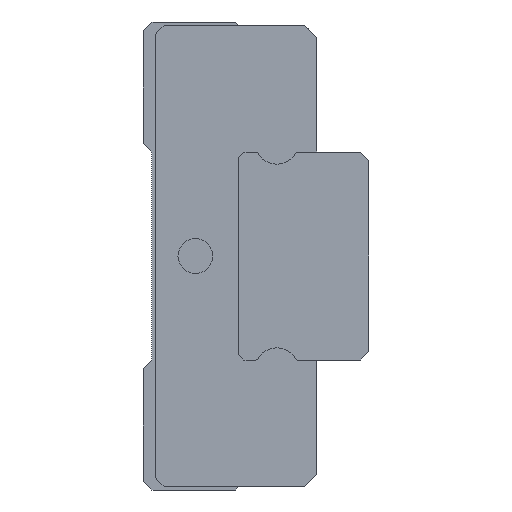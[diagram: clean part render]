
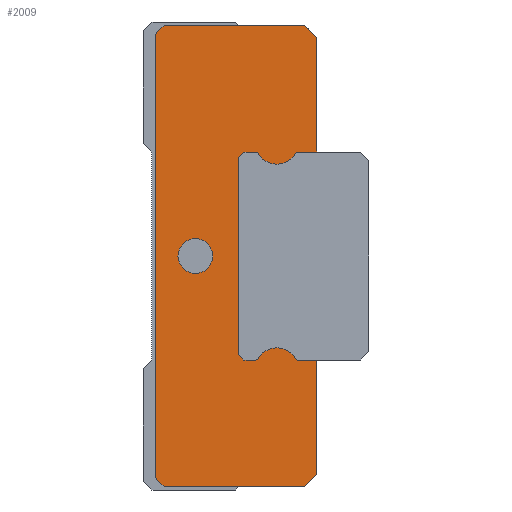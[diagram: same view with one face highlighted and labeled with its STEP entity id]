
A CAD part, left-side view. The second image highlights one B-rep face of the part: STEP entity #2009.
In plain terms, the highlighted planar face has unit normal (-1, 0, 0).
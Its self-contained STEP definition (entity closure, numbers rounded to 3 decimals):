
#93=CIRCLE('',#2204,1.);
#94=CIRCLE('',#2205,0.15);
#95=CIRCLE('',#2206,1.25);
#96=CIRCLE('',#2207,0.15);
#97=CIRCLE('',#2208,0.15);
#98=CIRCLE('',#2209,1.25);
#99=CIRCLE('',#2210,0.15);
#455=ORIENTED_EDGE('',*,*,#864,.T.);
#456=ORIENTED_EDGE('',*,*,#865,.T.);
#457=ORIENTED_EDGE('',*,*,#846,.F.);
#458=ORIENTED_EDGE('',*,*,#770,.F.);
#459=ORIENTED_EDGE('',*,*,#766,.F.);
#460=ORIENTED_EDGE('',*,*,#787,.F.);
#461=ORIENTED_EDGE('',*,*,#839,.F.);
#462=ORIENTED_EDGE('',*,*,#831,.F.);
#463=ORIENTED_EDGE('',*,*,#837,.F.);
#464=ORIENTED_EDGE('',*,*,#808,.F.);
#465=ORIENTED_EDGE('',*,*,#848,.F.);
#466=ORIENTED_EDGE('',*,*,#866,.F.);
#467=ORIENTED_EDGE('',*,*,#867,.T.);
#468=ORIENTED_EDGE('',*,*,#868,.F.);
#469=ORIENTED_EDGE('',*,*,#869,.T.);
#470=ORIENTED_EDGE('',*,*,#870,.T.);
#471=ORIENTED_EDGE('',*,*,#871,.T.);
#472=ORIENTED_EDGE('',*,*,#872,.T.);
#473=ORIENTED_EDGE('',*,*,#873,.T.);
#474=ORIENTED_EDGE('',*,*,#874,.T.);
#475=ORIENTED_EDGE('',*,*,#875,.T.);
#476=ORIENTED_EDGE('',*,*,#876,.F.);
#477=ORIENTED_EDGE('',*,*,#877,.T.);
#766=EDGE_CURVE('',#1014,#1015,#1182,.T.);
#770=EDGE_CURVE('',#1015,#1017,#1186,.T.);
#787=EDGE_CURVE('',#1030,#1014,#1203,.T.);
#808=EDGE_CURVE('',#1047,#1048,#1224,.T.);
#831=EDGE_CURVE('',#1065,#1066,#1247,.T.);
#837=EDGE_CURVE('',#1048,#1065,#1253,.T.);
#839=EDGE_CURVE('',#1066,#1030,#1255,.T.);
#846=EDGE_CURVE('',#1017,#1069,#1262,.T.);
#848=EDGE_CURVE('',#1070,#1047,#1264,.T.);
#864=EDGE_CURVE('',#1085,#1085,#93,.T.);
#865=EDGE_CURVE('',#1086,#1069,#1273,.T.);
#866=EDGE_CURVE('',#1087,#1070,#1274,.T.);
#867=EDGE_CURVE('',#1087,#1088,#94,.T.);
#868=EDGE_CURVE('',#1089,#1088,#95,.T.);
#869=EDGE_CURVE('',#1089,#1090,#96,.T.);
#870=EDGE_CURVE('',#1090,#1091,#1275,.T.);
#871=EDGE_CURVE('',#1091,#1092,#1276,.T.);
#872=EDGE_CURVE('',#1092,#1093,#1277,.T.);
#873=EDGE_CURVE('',#1093,#1094,#1278,.T.);
#874=EDGE_CURVE('',#1094,#1095,#1279,.T.);
#875=EDGE_CURVE('',#1095,#1096,#97,.T.);
#876=EDGE_CURVE('',#1097,#1096,#98,.T.);
#877=EDGE_CURVE('',#1097,#1086,#99,.T.);
#1014=VERTEX_POINT('',#3058);
#1015=VERTEX_POINT('',#3060);
#1017=VERTEX_POINT('',#3067);
#1030=VERTEX_POINT('',#3099);
#1047=VERTEX_POINT('',#3142);
#1048=VERTEX_POINT('',#3144);
#1065=VERTEX_POINT('',#3188);
#1066=VERTEX_POINT('',#3190);
#1069=VERTEX_POINT('',#3213);
#1070=VERTEX_POINT('',#3218);
#1085=VERTEX_POINT('',#3252);
#1086=VERTEX_POINT('',#3254);
#1087=VERTEX_POINT('',#3256);
#1088=VERTEX_POINT('',#3258);
#1089=VERTEX_POINT('',#3260);
#1090=VERTEX_POINT('',#3262);
#1091=VERTEX_POINT('',#3264);
#1092=VERTEX_POINT('',#3266);
#1093=VERTEX_POINT('',#3268);
#1094=VERTEX_POINT('',#3270);
#1095=VERTEX_POINT('',#3272);
#1096=VERTEX_POINT('',#3274);
#1097=VERTEX_POINT('',#3276);
#1182=LINE('',#3059,#1374);
#1186=LINE('',#3066,#1378);
#1203=LINE('',#3100,#1395);
#1224=LINE('',#3143,#1416);
#1247=LINE('',#3189,#1439);
#1253=LINE('',#3199,#1445);
#1255=LINE('',#3202,#1447);
#1262=LINE('',#3215,#1454);
#1264=LINE('',#3220,#1456);
#1273=LINE('',#3253,#1465);
#1274=LINE('',#3255,#1466);
#1275=LINE('',#3263,#1467);
#1276=LINE('',#3265,#1468);
#1277=LINE('',#3267,#1469);
#1278=LINE('',#3269,#1470);
#1279=LINE('',#3271,#1471);
#1374=VECTOR('',#2500,1000.);
#1378=VECTOR('',#2506,1000.);
#1395=VECTOR('',#2529,1000.);
#1416=VECTOR('',#2560,1000.);
#1439=VECTOR('',#2593,1000.);
#1445=VECTOR('',#2603,1000.);
#1447=VECTOR('',#2607,1000.);
#1454=VECTOR('',#2622,1000.);
#1456=VECTOR('',#2626,1000.);
#1465=VECTOR('',#2655,1000.);
#1466=VECTOR('',#2656,1000.);
#1467=VECTOR('',#2663,1000.);
#1468=VECTOR('',#2664,1000.);
#1469=VECTOR('',#2665,1000.);
#1470=VECTOR('',#2666,1000.);
#1471=VECTOR('',#2667,1000.);
#1628=EDGE_LOOP('',(#455));
#1629=EDGE_LOOP('',(#456,#457,#458,#459,#460,#461,#462,#463,#464,#465,#466,
#467,#468,#469,#470,#471,#472,#473,#474,#475,#476,#477));
#1800=FACE_BOUND('',#1628,.T.);
#1801=FACE_BOUND('',#1629,.T.);
#1913=PLANE('',#2203);
#2009=ADVANCED_FACE('',(#1800,#1801),#1913,.F.);
#2203=AXIS2_PLACEMENT_3D('',#3250,#2651,#2652);
#2204=AXIS2_PLACEMENT_3D('',#3251,#2653,#2654);
#2205=AXIS2_PLACEMENT_3D('',#3257,#2657,#2658);
#2206=AXIS2_PLACEMENT_3D('',#3259,#2659,#2660);
#2207=AXIS2_PLACEMENT_3D('',#3261,#2661,#2662);
#2208=AXIS2_PLACEMENT_3D('',#3273,#2668,#2669);
#2209=AXIS2_PLACEMENT_3D('',#3275,#2670,#2671);
#2210=AXIS2_PLACEMENT_3D('',#3277,#2672,#2673);
#2500=DIRECTION('',(0.,-1.,0.));
#2506=DIRECTION('',(0.,-0.707,-0.707));
#2529=DIRECTION('',(0.,-0.707,0.707));
#2560=DIRECTION('',(0.,0.707,-0.707));
#2593=DIRECTION('',(0.,0.707,0.707));
#2603=DIRECTION('',(0.,1.,0.));
#2607=DIRECTION('',(0.,0.,1.));
#2622=DIRECTION('',(0.,0.,-1.));
#2626=DIRECTION('',(0.,0.,-1.));
#2651=DIRECTION('',(1.,0.,0.));
#2652=DIRECTION('',(0.,0.,-1.));
#2653=DIRECTION('',(1.,0.,0.));
#2654=DIRECTION('',(0.,0.,-1.));
#2655=DIRECTION('',(0.,-1.,0.));
#2656=DIRECTION('',(0.,-1.,0.));
#2657=DIRECTION('',(1.,0.,0.));
#2658=DIRECTION('',(0.,0.,-1.));
#2659=DIRECTION('',(1.,0.,0.));
#2660=DIRECTION('',(0.,0.,-1.));
#2661=DIRECTION('',(1.,0.,0.));
#2662=DIRECTION('',(0.,0.,-1.));
#2663=DIRECTION('',(0.,1.,0.));
#2664=DIRECTION('',(0.,0.707,0.707));
#2665=DIRECTION('',(0.,0.,1.));
#2666=DIRECTION('',(0.,-0.707,0.707));
#2667=DIRECTION('',(0.,-1.,0.));
#2668=DIRECTION('',(1.,0.,0.));
#2669=DIRECTION('',(0.,0.,-1.));
#2670=DIRECTION('',(1.,0.,0.));
#2671=DIRECTION('',(0.,0.,-1.));
#2672=DIRECTION('',(1.,0.,0.));
#2673=DIRECTION('',(0.,0.,-1.));
#3058=CARTESIAN_POINT('',(-17.5,8.8,13.3));
#3059=CARTESIAN_POINT('',(-17.5,8.8,13.3));
#3060=CARTESIAN_POINT('',(-17.5,0.7,13.3));
#3066=CARTESIAN_POINT('',(-17.5,0.7,13.3));
#3067=CARTESIAN_POINT('',(-17.5,0.,12.6));
#3099=CARTESIAN_POINT('',(-17.5,9.3,12.8));
#3100=CARTESIAN_POINT('',(-17.5,9.3,12.8));
#3142=CARTESIAN_POINT('',(-17.5,0.,-12.6));
#3143=CARTESIAN_POINT('',(-17.5,0.,-12.6));
#3144=CARTESIAN_POINT('',(-17.5,0.7,-13.3));
#3188=CARTESIAN_POINT('',(-17.5,8.8,-13.3));
#3189=CARTESIAN_POINT('',(-17.5,8.8,-13.3));
#3190=CARTESIAN_POINT('',(-17.5,9.3,-12.8));
#3199=CARTESIAN_POINT('',(-17.5,0.7,-13.3));
#3202=CARTESIAN_POINT('',(-17.5,9.3,-12.8));
#3213=CARTESIAN_POINT('',(-17.5,0.,6.));
#3215=CARTESIAN_POINT('',(-17.5,0.,12.6));
#3218=CARTESIAN_POINT('',(-17.5,0.,-6.));
#3220=CARTESIAN_POINT('',(-17.5,0.,12.6));
#3250=CARTESIAN_POINT('',(-17.5,0.,0.));
#3251=CARTESIAN_POINT('',(-17.5,7.,0.));
#3252=CARTESIAN_POINT('',(-17.5,7.,-1.));
#3253=CARTESIAN_POINT('',(-17.5,1.088,6.));
#3254=CARTESIAN_POINT('',(-17.5,1.088,6.));
#3255=CARTESIAN_POINT('',(-17.5,0.,-6.));
#3256=CARTESIAN_POINT('',(-17.5,1.088,-6.));
#3257=CARTESIAN_POINT('',(-17.5,1.088,-5.85));
#3258=CARTESIAN_POINT('',(-17.5,1.217,-5.925));
#3259=CARTESIAN_POINT('',(-17.5,2.3,-6.55));
#3260=CARTESIAN_POINT('',(-17.5,3.383,-5.925));
#3261=CARTESIAN_POINT('',(-17.5,3.512,-5.85));
#3262=CARTESIAN_POINT('',(-17.5,3.512,-6.));
#3263=CARTESIAN_POINT('',(-17.5,3.512,-6.));
#3264=CARTESIAN_POINT('',(-17.5,4.2,-6.));
#3265=CARTESIAN_POINT('',(-17.5,4.2,-6.));
#3266=CARTESIAN_POINT('',(-17.5,4.5,-5.7));
#3267=CARTESIAN_POINT('',(-17.5,4.5,-5.7));
#3268=CARTESIAN_POINT('',(-17.5,4.5,5.7));
#3269=CARTESIAN_POINT('',(-17.5,4.5,5.7));
#3270=CARTESIAN_POINT('',(-17.5,4.2,6.));
#3271=CARTESIAN_POINT('',(-17.5,4.2,6.));
#3272=CARTESIAN_POINT('',(-17.5,3.512,6.));
#3273=CARTESIAN_POINT('',(-17.5,3.512,5.85));
#3274=CARTESIAN_POINT('',(-17.5,3.383,5.925));
#3275=CARTESIAN_POINT('',(-17.5,2.3,6.55));
#3276=CARTESIAN_POINT('',(-17.5,1.217,5.925));
#3277=CARTESIAN_POINT('',(-17.5,1.088,5.85));
